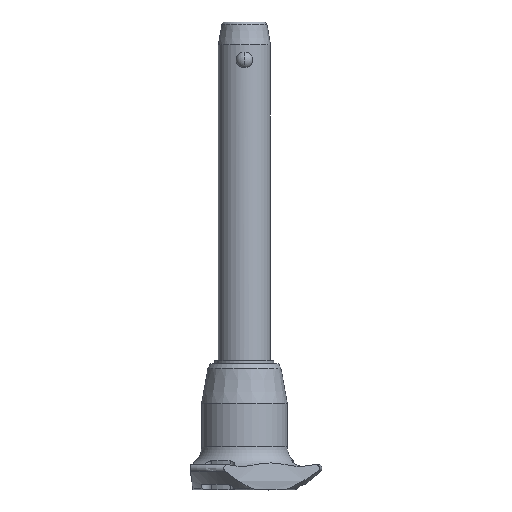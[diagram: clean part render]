
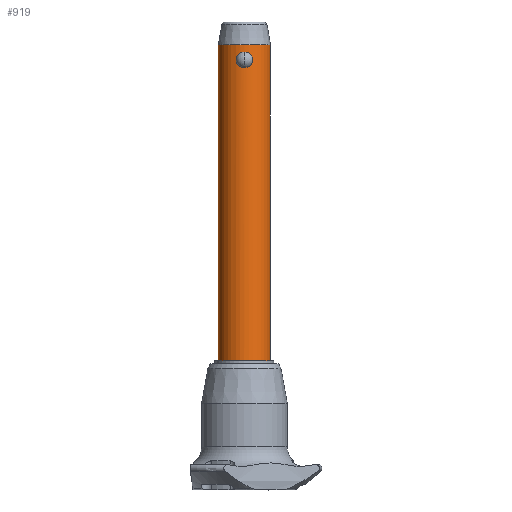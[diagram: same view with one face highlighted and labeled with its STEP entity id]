
A CAD part, front view. The second image highlights one B-rep face of the part: STEP entity #919.
In plain terms, the highlighted cylindrical face has radius 8 mm (diameter 16 mm), a partial arc.
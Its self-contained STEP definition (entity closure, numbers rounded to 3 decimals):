
#1 = CARTESIAN_POINT ( 'NONE',  ( -1.53, -7.854, 0.464 ) ) ;
#33 = CARTESIAN_POINT ( 'NONE',  ( 1.253, -7.903, 4.478 ) ) ;
#35 = CARTESIAN_POINT ( 'NONE',  ( -2.193, -7.694, 3.623 ) ) ;
#45 = CARTESIAN_POINT ( 'NONE',  ( 1.108, -7.924, 4.548 ) ) ;
#66 = CARTESIAN_POINT ( 'NONE',  ( 0.164, -8., 4.775 ) ) ;
#72 = EDGE_CURVE ( 'NONE', #1333, #1268, #2040, .T. ) ;
#79 = CARTESIAN_POINT ( 'NONE',  ( 1.105, -7.925, 0.226 ) ) ;
#91 = CARTESIAN_POINT ( 'NONE',  ( 2.528, -7.59, 2.058 ) ) ;
#103 = CARTESIAN_POINT ( 'NONE',  ( 8., 0., 7. ) ) ;
#180 = CYLINDRICAL_SURFACE ( 'NONE', #1760, 8. ) ;
#217 = LINE ( 'NONE', #1087, #2792 ) ;
#236 = EDGE_CURVE ( 'NONE', #1654, #1262, #643, .T. ) ;
#241 = CARTESIAN_POINT ( 'NONE',  ( -2.003, -7.746, 3.882 ) ) ;
#258 = CARTESIAN_POINT ( 'NONE',  ( -2.529, -7.59, 2.716 ) ) ;
#270 = CARTESIAN_POINT ( 'NONE',  ( 1.66, -7.827, 4.215 ) ) ;
#299 = CARTESIAN_POINT ( 'NONE',  ( 0.652, -7.979, 0.058 ) ) ;
#310 = CARTESIAN_POINT ( 'NONE',  ( 2.275, -7.67, 1.291 ) ) ;
#358 = ORIENTED_EDGE ( 'NONE', *, *, #236, .T. ) ;
#424 = CARTESIAN_POINT ( 'NONE',  ( -2.461, -7.612, 1.746 ) ) ;
#427 = CARTESIAN_POINT ( 'NONE',  ( 0., 0., -90. ) ) ;
#436 = ORIENTED_EDGE ( 'NONE', *, *, #72, .F. ) ;
#439 = CARTESIAN_POINT ( 'NONE',  ( 0., -8., 0. ) ) ;
#466 = CARTESIAN_POINT ( 'NONE',  ( 0., -8., 4.775 ) ) ;
#481 = CARTESIAN_POINT ( 'NONE',  ( 2.41, -7.629, 3.184 ) ) ;
#483 = CARTESIAN_POINT ( 'NONE',  ( -1.659, -7.827, 0.559 ) ) ;
#494 = CARTESIAN_POINT ( 'NONE',  ( 1.657, -7.827, 0.558 ) ) ;
#505 = CARTESIAN_POINT ( 'NONE',  ( 0.324, -8., 0. ) ) ;
#534 = CARTESIAN_POINT ( 'NONE',  ( 0.804, -7.961, 4.661 ) ) ;
#538 = ORIENTED_EDGE ( 'NONE', *, *, #1817, .T. ) ;
#643 = CIRCLE ( 'NONE', #2787, 8. ) ;
#663 = CARTESIAN_POINT ( 'NONE',  ( -1.527, -7.854, 4.313 ) ) ;
#688 = CARTESIAN_POINT ( 'NONE',  ( 1.529, -7.854, 0.463 ) ) ;
#690 = CARTESIAN_POINT ( 'NONE',  ( -0.164, -8., 4.775 ) ) ;
#728 = VERTEX_POINT ( 'NONE', #1341 ) ;
#746 = CARTESIAN_POINT ( 'NONE',  ( 0., -8., 0. ) ) ;
#767 = ORIENTED_EDGE ( 'NONE', *, *, #1277, .F. ) ;
#824 = DIRECTION ( 'NONE',  ( 1., 0., 0. ) ) ;
#841 = DIRECTION ( 'NONE',  ( 0., 0., -1. ) ) ;
#858 = CARTESIAN_POINT ( 'NONE',  ( -0.324, -8., 0. ) ) ;
#874 = CARTESIAN_POINT ( 'NONE',  ( -1.254, -7.902, 0.297 ) ) ;
#892 = CARTESIAN_POINT ( 'NONE',  ( -1.896, -7.773, 4.001 ) ) ;
#919 = ADVANCED_FACE ( 'NONE', ( #2416, #2556 ), #180, .T. ) ;
#946 = CARTESIAN_POINT ( 'NONE',  ( 2.408, -7.629, 1.586 ) ) ;
#958 = CARTESIAN_POINT ( 'NONE',  ( 1.529, -7.854, 4.312 ) ) ;
#965 = CIRCLE ( 'NONE', #2701, 8. ) ;
#971 = EDGE_CURVE ( 'NONE', #1030, #1262, #1503, .T. ) ;
#1023 = EDGE_CURVE ( 'NONE', #728, #1030, #965, .T. ) ;
#1030 = VERTEX_POINT ( 'NONE', #1966 ) ;
#1066 = DIRECTION ( 'NONE',  ( 0., 0., -1. ) ) ;
#1082 = CARTESIAN_POINT ( 'NONE',  ( -8., 0., -90. ) ) ;
#1087 = CARTESIAN_POINT ( 'NONE',  ( 8., 0., -90. ) ) ;
#1096 = CARTESIAN_POINT ( 'NONE',  ( 0., 0., -90. ) ) ;
#1125 = CARTESIAN_POINT ( 'NONE',  ( 2.211, -7.69, 3.626 ) ) ;
#1127 = CARTESIAN_POINT ( 'NONE',  ( 0., -8., 4.775 ) ) ;
#1139 = CARTESIAN_POINT ( 'NONE',  ( 2.194, -7.694, 1.153 ) ) ;
#1250 = ORIENTED_EDGE ( 'NONE', *, *, #1023, .F. ) ;
#1262 = VERTEX_POINT ( 'NONE', #1964 ) ;
#1268 = VERTEX_POINT ( 'NONE', #466 ) ;
#1269 = DIRECTION ( 'NONE',  ( 1., 0., 0. ) ) ;
#1277 = EDGE_CURVE ( 'NONE', #1268, #1333, #2083, .T. ) ;
#1305 = DIRECTION ( 'NONE',  ( 1., 0., 0. ) ) ;
#1333 = VERTEX_POINT ( 'NONE', #2447 ) ;
#1341 = CARTESIAN_POINT ( 'NONE',  ( 8., 0., -90. ) ) ;
#1363 = CARTESIAN_POINT ( 'NONE',  ( 0., -8., 4.775 ) ) ;
#1386 = CARTESIAN_POINT ( 'NONE',  ( 1.894, -7.773, 0.773 ) ) ;
#1415 = EDGE_LOOP ( 'NONE', ( #767, #436 ) ) ;
#1503 = LINE ( 'NONE', #1082, #2652 ) ;
#1517 = CARTESIAN_POINT ( 'NONE',  ( -1.658, -7.827, 4.216 ) ) ;
#1581 = CARTESIAN_POINT ( 'NONE',  ( -2.529, -7.59, 2.064 ) ) ;
#1636 = CARTESIAN_POINT ( 'NONE',  ( 2.546, -7.584, 2.22 ) ) ;
#1654 = VERTEX_POINT ( 'NONE', #103 ) ;
#1731 = CARTESIAN_POINT ( 'NONE',  ( -0.326, -7.995, 4.761 ) ) ;
#1760 = AXIS2_PLACEMENT_3D ( 'NONE', #427, #2181, #1305 ) ;
#1785 = CARTESIAN_POINT ( 'NONE',  ( -1.107, -7.924, 4.548 ) ) ;
#1796 = CARTESIAN_POINT ( 'NONE',  ( 0.645, -7.976, 4.704 ) ) ;
#1799 = CARTESIAN_POINT ( 'NONE',  ( -2.211, -7.69, 1.148 ) ) ;
#1812 = CARTESIAN_POINT ( 'NONE',  ( 2.547, -7.584, 2.549 ) ) ;
#1817 = EDGE_CURVE ( 'NONE', #728, #1654, #217, .T. ) ;
#1826 = CARTESIAN_POINT ( 'NONE',  ( 2.004, -7.746, 0.894 ) ) ;
#1839 = CARTESIAN_POINT ( 'NONE',  ( 0.326, -7.995, 4.761 ) ) ;
#1964 = CARTESIAN_POINT ( 'NONE',  ( -8., 0., 7. ) ) ;
#1966 = CARTESIAN_POINT ( 'NONE',  ( -8., 0., -90. ) ) ;
#1986 = DIRECTION ( 'NONE',  ( 0., 0., 1. ) ) ;
#1993 = CARTESIAN_POINT ( 'NONE',  ( -2.016, -7.746, 0.883 ) ) ;
#2027 = CARTESIAN_POINT ( 'NONE',  ( -2.411, -7.628, 1.592 ) ) ;
#2037 = CARTESIAN_POINT ( 'NONE',  ( 2.461, -7.612, 3.027 ) ) ;
#2040 = B_SPLINE_CURVE_WITH_KNOTS ( 'NONE', 3,
 ( #746, #505, #299, #79, #2748, #688, #494, #1386, #1826, #1139, #310, #946, #2732, #91, #1636, #1812, #2259, #2037, #481, #1125, #2536, #270, #958, #33, #45, #534, #1796, #1839, #66, #1363 ),
 .UNSPECIFIED., .F., .F.,
 ( 4, 2, 2, 2, 2, 2, 2, 2, 2, 2, 2, 2, 2, 2, 4 ),
 ( 0.008, 0.009, 0.009, 0.01, 0.01, 0.011, 0.011, 0.012, 0.012, 0.013, 0.014, 0.014, 0.015, 0.015, 0.016 ),
 .UNSPECIFIED. ) ;
#2083 = B_SPLINE_CURVE_WITH_KNOTS ( 'NONE', 3,
 ( #1127, #690, #1731, #2433, #2664, #1785, #2678, #663, #1517, #892, #241, #35, #2631, #2862, #2246, #258, #2413, #2227, #1581, #424, #2027, #1799, #1993, #483, #1, #874, #2262, #2197, #858, #439 ),
 .UNSPECIFIED., .F., .F.,
 ( 4, 2, 2, 2, 2, 2, 2, 2, 2, 2, 2, 2, 2, 2, 4 ),
 ( 0., 0., 0.001, 0.001, 0.002, 0.002, 0.003, 0.003, 0.004, 0.004, 0.005, 0.006, 0.006, 0.007, 0.008 ),
 .UNSPECIFIED. ) ;
#2181 = DIRECTION ( 'NONE',  ( 0., 0., 1. ) ) ;
#2197 = CARTESIAN_POINT ( 'NONE',  ( -0.652, -7.979, 0.058 ) ) ;
#2207 = CARTESIAN_POINT ( 'NONE',  ( 0., 0., 7. ) ) ;
#2227 = CARTESIAN_POINT ( 'NONE',  ( -2.547, -7.584, 2.229 ) ) ;
#2246 = CARTESIAN_POINT ( 'NONE',  ( -2.459, -7.613, 3.036 ) ) ;
#2259 = CARTESIAN_POINT ( 'NONE',  ( 2.529, -7.59, 2.71 ) ) ;
#2262 = CARTESIAN_POINT ( 'NONE',  ( -1.106, -7.925, 0.226 ) ) ;
#2314 = ORIENTED_EDGE ( 'NONE', *, *, #971, .F. ) ;
#2397 = EDGE_LOOP ( 'NONE', ( #2314, #1250, #538, #358 ) ) ;
#2413 = CARTESIAN_POINT ( 'NONE',  ( -2.546, -7.584, 2.553 ) ) ;
#2416 = FACE_OUTER_BOUND ( 'NONE', #2397, .T. ) ;
#2433 = CARTESIAN_POINT ( 'NONE',  ( -0.645, -7.976, 4.704 ) ) ;
#2447 = CARTESIAN_POINT ( 'NONE',  ( 0., -8., 0. ) ) ;
#2536 = CARTESIAN_POINT ( 'NONE',  ( 2.016, -7.746, 3.891 ) ) ;
#2556 = FACE_BOUND ( 'NONE', #1415, .T. ) ;
#2631 = CARTESIAN_POINT ( 'NONE',  ( -2.276, -7.67, 3.482 ) ) ;
#2633 = DIRECTION ( 'NONE',  ( 0., 0., 1. ) ) ;
#2652 = VECTOR ( 'NONE', #2633, 1000. ) ;
#2664 = CARTESIAN_POINT ( 'NONE',  ( -0.803, -7.961, 4.661 ) ) ;
#2678 = CARTESIAN_POINT ( 'NONE',  ( -1.252, -7.903, 4.479 ) ) ;
#2701 = AXIS2_PLACEMENT_3D ( 'NONE', #1096, #1066, #1269 ) ;
#2732 = CARTESIAN_POINT ( 'NONE',  ( 2.46, -7.613, 1.742 ) ) ;
#2748 = CARTESIAN_POINT ( 'NONE',  ( 1.252, -7.903, 0.296 ) ) ;
#2787 = AXIS2_PLACEMENT_3D ( 'NONE', #2207, #841, #824 ) ;
#2792 = VECTOR ( 'NONE', #1986, 1000. ) ;
#2862 = CARTESIAN_POINT ( 'NONE',  ( -2.408, -7.629, 3.189 ) ) ;
